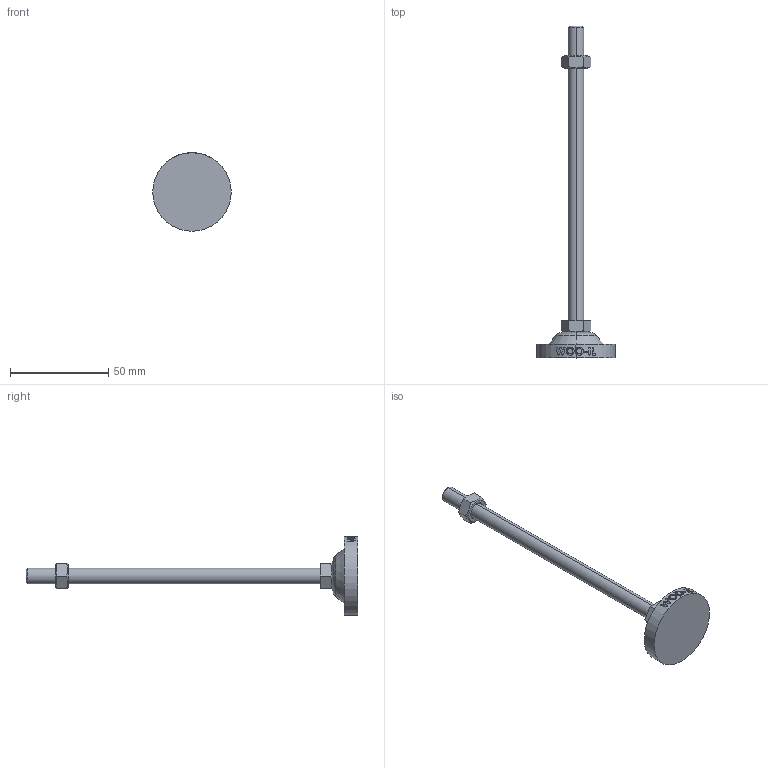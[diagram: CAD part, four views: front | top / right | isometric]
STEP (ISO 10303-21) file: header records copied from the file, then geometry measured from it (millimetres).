
FILE_DESCRIPTION (( 'STEP AP214' ), '1' );
FILE_NAME ('RB40-M8-150.step', '2021-01-18T05:48:07', ( '' ), ( '' ), 'SwSTEP 2.0', 'SolidWorks 2019', '' );
FILE_SCHEMA (( 'AUTOMOTIVE_DESIGN' ));
Length unit declared in the file: millimetre
Products named in the file (2): RB40-M8-150
Bounding box: 40 x 169 x 40 mm (x, y, z)
Volume: 19080.3 mm3; surface area: 9285 mm2
Topology: 2 solids, 3 shells, 129 faces, 323 edges, 210 vertices
Faces by surface type: plane 48, cylinder 43, bspline 18, cone 16, torus 4
Entity records: 5302 total; most frequent: CARTESIAN_POINT 2423, ORIENTED_EDGE 646, DIRECTION 483, EDGE_CURVE 323, VERTEX_POINT 210, AXIS2_PLACEMENT_3D 177, EDGE_LOOP 141, LINE 129
